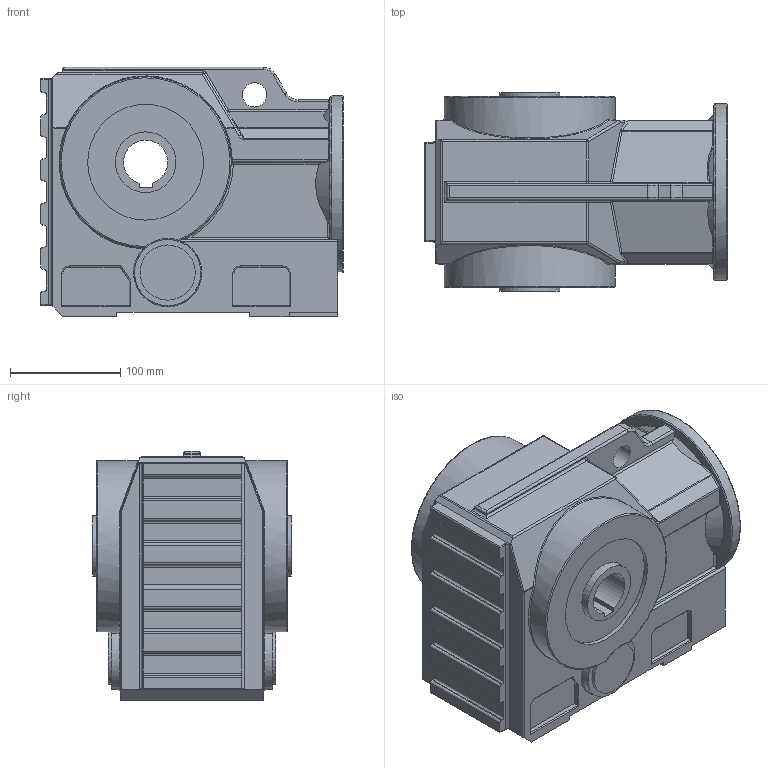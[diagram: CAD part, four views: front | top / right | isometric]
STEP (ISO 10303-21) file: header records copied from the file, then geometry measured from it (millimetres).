
FILE_DESCRIPTION((''),'2;1');
FILE_NAME('F:\PAWEŁ\ZLECENIA\2011 DualSystem\Przekładnie DK\001 Modele\DKAB60_\DK_60_STEP\DK_A_60.stp','2012-06-26T18:52:54',('admin'),(''),'Autodesk Inventor 2009','Autodesk Inventor 2009','');
FILE_SCHEMA(('AUTOMOTIVE_DESIGN { 1 0 10303 214 1 1 1 1 }'));
Length unit declared in the file: millimetre
Products named in the file (1): DK_A_60
Bounding box: 274 x 180 x 226 mm (x, y, z)
Volume: 7410054.2 mm3; surface area: 304418 mm2
Topology: 1 solids, 1 shells, 397 faces, 946 edges, 550 vertices
Faces by surface type: cylinder 164, plane 98, bspline 84, torus 35, sphere 12, cone 4
Full cylindrical faces by diameter (mm): 10.106 x4, 22 x1, 50 x1, 55 x1, 100 x1, 105 x1, 160 x1
Entity records: 14015 total; most frequent: CARTESIAN_POINT 5091, DIRECTION 1880, ORIENTED_EDGE 1828, EDGE_CURVE 914, AXIS2_PLACEMENT_3D 727, VERTEX_POINT 549, EDGE_LOOP 431, VECTOR 426
